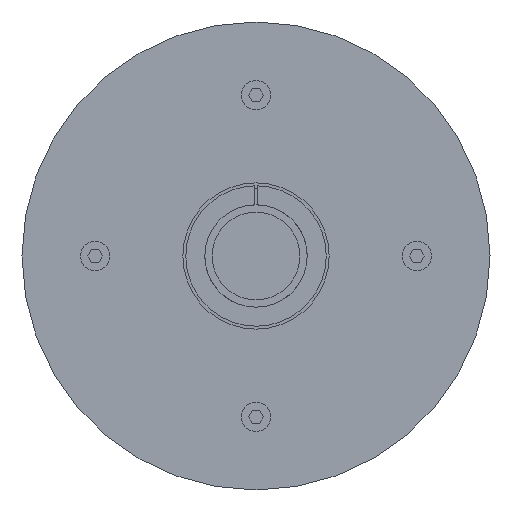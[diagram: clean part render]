
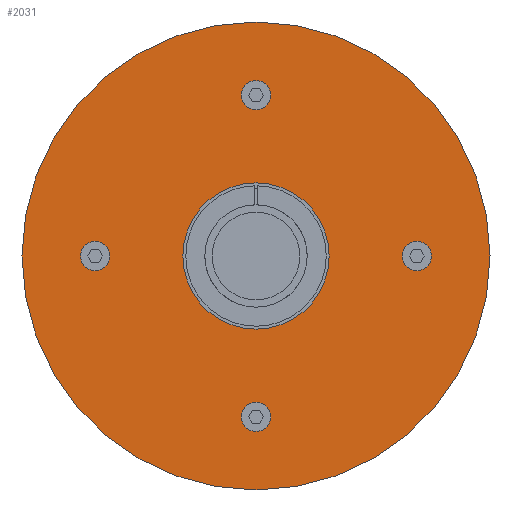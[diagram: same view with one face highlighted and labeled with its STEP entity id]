
A CAD part, left-side view. The second image highlights one B-rep face of the part: STEP entity #2031.
In plain terms, the highlighted planar face has unit normal (-1, 0, 0).
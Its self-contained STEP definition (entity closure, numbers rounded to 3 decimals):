
#1775 = VERTEX_POINT('',#1776);
#1776 = CARTESIAN_POINT('',(-356.,-80.,0.));
#1783 = CYLINDRICAL_SURFACE('',#1784,80.);
#1784 = AXIS2_PLACEMENT_3D('',#1785,#1786,#1787);
#1785 = CARTESIAN_POINT('',(-350.,0.,0.));
#1786 = DIRECTION('',(1.,0.,-0.));
#1787 = DIRECTION('',(0.,-1.,0.));
#1802 = EDGE_CURVE('',#1775,#1775,#1803,.T.);
#1803 = SURFACE_CURVE('',#1804,(#1809,#1816),.PCURVE_S1.);
#1804 = CIRCLE('',#1805,80.);
#1805 = AXIS2_PLACEMENT_3D('',#1806,#1807,#1808);
#1806 = CARTESIAN_POINT('',(-356.,0.,0.));
#1807 = DIRECTION('',(-1.,0.,0.));
#1808 = DIRECTION('',(0.,-1.,0.));
#1809 = PCURVE('',#1783,#1810);
#1810 = DEFINITIONAL_REPRESENTATION('',(#1811),#1815);
#1811 = LINE('',#1812,#1813);
#1812 = CARTESIAN_POINT('',(-0.,-6.));
#1813 = VECTOR('',#1814,1.);
#1814 = DIRECTION('',(-1.,0.));
#1815 = ( GEOMETRIC_REPRESENTATION_CONTEXT(2) 
PARAMETRIC_REPRESENTATION_CONTEXT() REPRESENTATION_CONTEXT('2D SPACE',''
  ) );
#1816 = PCURVE('',#1817,#1822);
#1817 = PLANE('',#1818);
#1818 = AXIS2_PLACEMENT_3D('',#1819,#1820,#1821);
#1819 = CARTESIAN_POINT('',(-356.,0.,0.)
  );
#1820 = DIRECTION('',(-1.,0.,0.));
#1821 = DIRECTION('',(0.,0.,1.));
#1822 = DEFINITIONAL_REPRESENTATION('',(#1823),#1827);
#1823 = CIRCLE('',#1824,80.);
#1824 = AXIS2_PLACEMENT_2D('',#1825,#1826);
#1825 = CARTESIAN_POINT('',(0.,0.));
#1826 = DIRECTION('',(0.,-1.));
#1827 = ( GEOMETRIC_REPRESENTATION_CONTEXT(2) 
PARAMETRIC_REPRESENTATION_CONTEXT() REPRESENTATION_CONTEXT('2D SPACE',''
  ) );
#1884 = CYLINDRICAL_SURFACE('',#1885,3.3);
#1885 = AXIS2_PLACEMENT_3D('',#1886,#1887,#1888);
#1886 = CARTESIAN_POINT('',(-337.,-55.,0.));
#1887 = DIRECTION('',(1.,0.,-0.));
#1888 = DIRECTION('',(0.,-1.,0.));
#1915 = CYLINDRICAL_SURFACE('',#1916,25.);
#1916 = AXIS2_PLACEMENT_3D('',#1917,#1918,#1919);
#1917 = CARTESIAN_POINT('',(-350.,0.,0.)
  );
#1918 = DIRECTION('',(1.,0.,-0.));
#1919 = DIRECTION('',(0.,-1.,0.));
#1950 = CYLINDRICAL_SURFACE('',#1951,3.3);
#1951 = AXIS2_PLACEMENT_3D('',#1952,#1953,#1954);
#1952 = CARTESIAN_POINT('',(-337.,0.,-55.));
#1953 = DIRECTION('',(1.,0.,-0.));
#1954 = DIRECTION('',(0.,-1.,0.));
#1985 = CYLINDRICAL_SURFACE('',#1986,3.3);
#1986 = AXIS2_PLACEMENT_3D('',#1987,#1988,#1989);
#1987 = CARTESIAN_POINT('',(-337.,0.,55.));
#1988 = DIRECTION('',(1.,0.,-0.));
#1989 = DIRECTION('',(0.,-1.,0.));
#2020 = CYLINDRICAL_SURFACE('',#2021,3.3);
#2021 = AXIS2_PLACEMENT_3D('',#2022,#2023,#2024);
#2022 = CARTESIAN_POINT('',(-337.,55.,0.));
#2023 = DIRECTION('',(1.,0.,-0.));
#2024 = DIRECTION('',(0.,-1.,0.));
#2031 = ADVANCED_FACE('',(#2032,#2035,#2065,#2091,#2121,#2151),#1817,.T.
  );
#2032 = FACE_BOUND('',#2033,.T.);
#2033 = EDGE_LOOP('',(#2034));
#2034 = ORIENTED_EDGE('',*,*,#1802,.T.);
#2035 = FACE_BOUND('',#2036,.T.);
#2036 = EDGE_LOOP('',(#2037));
#2037 = ORIENTED_EDGE('',*,*,#2038,.T.);
#2038 = EDGE_CURVE('',#2039,#2039,#2041,.T.);
#2039 = VERTEX_POINT('',#2040);
#2040 = CARTESIAN_POINT('',(-356.,-58.3,0.));
#2041 = SURFACE_CURVE('',#2042,(#2047,#2058),.PCURVE_S1.);
#2042 = CIRCLE('',#2043,3.3);
#2043 = AXIS2_PLACEMENT_3D('',#2044,#2045,#2046);
#2044 = CARTESIAN_POINT('',(-356.,-55.,0.));
#2045 = DIRECTION('',(1.,0.,-0.));
#2046 = DIRECTION('',(0.,-1.,0.));
#2047 = PCURVE('',#1817,#2048);
#2048 = DEFINITIONAL_REPRESENTATION('',(#2049),#2057);
#2049 = ( BOUNDED_CURVE() B_SPLINE_CURVE(2,(#2050,#2051,#2052,#2053,
#2054,#2055,#2056),.UNSPECIFIED.,.T.,.F.) B_SPLINE_CURVE_WITH_KNOTS((1,2
    ,2,2,2,1),(-2.094,0.,2.094,4.189,
6.283,8.378),.UNSPECIFIED.) CURVE() 
GEOMETRIC_REPRESENTATION_ITEM() RATIONAL_B_SPLINE_CURVE((1.,0.5,1.,0.5,
1.,0.5,1.)) REPRESENTATION_ITEM('') );
#2050 = CARTESIAN_POINT('',(0.,-58.3));
#2051 = CARTESIAN_POINT('',(-5.716,-58.3));
#2052 = CARTESIAN_POINT('',(-2.858,-53.35));
#2053 = CARTESIAN_POINT('',(0.,-48.4));
#2054 = CARTESIAN_POINT('',(2.858,-53.35));
#2055 = CARTESIAN_POINT('',(5.716,-58.3));
#2056 = CARTESIAN_POINT('',(0.,-58.3));
#2057 = ( GEOMETRIC_REPRESENTATION_CONTEXT(2) 
PARAMETRIC_REPRESENTATION_CONTEXT() REPRESENTATION_CONTEXT('2D SPACE',''
  ) );
#2058 = PCURVE('',#1884,#2059);
#2059 = DEFINITIONAL_REPRESENTATION('',(#2060),#2064);
#2060 = LINE('',#2061,#2062);
#2061 = CARTESIAN_POINT('',(-6.283,-19.));
#2062 = VECTOR('',#2063,1.);
#2063 = DIRECTION('',(1.,-0.));
#2064 = ( GEOMETRIC_REPRESENTATION_CONTEXT(2) 
PARAMETRIC_REPRESENTATION_CONTEXT() REPRESENTATION_CONTEXT('2D SPACE',''
  ) );
#2065 = FACE_BOUND('',#2066,.T.);
#2066 = EDGE_LOOP('',(#2067));
#2067 = ORIENTED_EDGE('',*,*,#2068,.F.);
#2068 = EDGE_CURVE('',#2069,#2069,#2071,.T.);
#2069 = VERTEX_POINT('',#2070);
#2070 = CARTESIAN_POINT('',(-356.,-25.,0.));
#2071 = SURFACE_CURVE('',#2072,(#2077,#2084),.PCURVE_S1.);
#2072 = CIRCLE('',#2073,25.);
#2073 = AXIS2_PLACEMENT_3D('',#2074,#2075,#2076);
#2074 = CARTESIAN_POINT('',(-356.,0.,0.)
  );
#2075 = DIRECTION('',(-1.,0.,0.));
#2076 = DIRECTION('',(0.,-1.,0.));
#2077 = PCURVE('',#1817,#2078);
#2078 = DEFINITIONAL_REPRESENTATION('',(#2079),#2083);
#2079 = CIRCLE('',#2080,25.);
#2080 = AXIS2_PLACEMENT_2D('',#2081,#2082);
#2081 = CARTESIAN_POINT('',(0.,0.));
#2082 = DIRECTION('',(0.,-1.));
#2083 = ( GEOMETRIC_REPRESENTATION_CONTEXT(2) 
PARAMETRIC_REPRESENTATION_CONTEXT() REPRESENTATION_CONTEXT('2D SPACE',''
  ) );
#2084 = PCURVE('',#1915,#2085);
#2085 = DEFINITIONAL_REPRESENTATION('',(#2086),#2090);
#2086 = LINE('',#2087,#2088);
#2087 = CARTESIAN_POINT('',(-0.,-6.));
#2088 = VECTOR('',#2089,1.);
#2089 = DIRECTION('',(-1.,0.));
#2090 = ( GEOMETRIC_REPRESENTATION_CONTEXT(2) 
PARAMETRIC_REPRESENTATION_CONTEXT() REPRESENTATION_CONTEXT('2D SPACE',''
  ) );
#2091 = FACE_BOUND('',#2092,.T.);
#2092 = EDGE_LOOP('',(#2093));
#2093 = ORIENTED_EDGE('',*,*,#2094,.T.);
#2094 = EDGE_CURVE('',#2095,#2095,#2097,.T.);
#2095 = VERTEX_POINT('',#2096);
#2096 = CARTESIAN_POINT('',(-356.,-3.3,-55.));
#2097 = SURFACE_CURVE('',#2098,(#2103,#2114),.PCURVE_S1.);
#2098 = CIRCLE('',#2099,3.3);
#2099 = AXIS2_PLACEMENT_3D('',#2100,#2101,#2102);
#2100 = CARTESIAN_POINT('',(-356.,0.,-55.));
#2101 = DIRECTION('',(1.,0.,-0.));
#2102 = DIRECTION('',(0.,-1.,0.));
#2103 = PCURVE('',#1817,#2104);
#2104 = DEFINITIONAL_REPRESENTATION('',(#2105),#2113);
#2105 = ( BOUNDED_CURVE() B_SPLINE_CURVE(2,(#2106,#2107,#2108,#2109,
#2110,#2111,#2112),.UNSPECIFIED.,.T.,.F.) B_SPLINE_CURVE_WITH_KNOTS((1,2
    ,2,2,2,1),(-2.094,0.,2.094,4.189,
6.283,8.378),.UNSPECIFIED.) CURVE() 
GEOMETRIC_REPRESENTATION_ITEM() RATIONAL_B_SPLINE_CURVE((1.,0.5,1.,0.5,
1.,0.5,1.)) REPRESENTATION_ITEM('') );
#2106 = CARTESIAN_POINT('',(-55.,-3.3));
#2107 = CARTESIAN_POINT('',(-60.716,-3.3));
#2108 = CARTESIAN_POINT('',(-57.858,1.65));
#2109 = CARTESIAN_POINT('',(-55.,6.6));
#2110 = CARTESIAN_POINT('',(-52.142,1.65));
#2111 = CARTESIAN_POINT('',(-49.284,-3.3));
#2112 = CARTESIAN_POINT('',(-55.,-3.3));
#2113 = ( GEOMETRIC_REPRESENTATION_CONTEXT(2) 
PARAMETRIC_REPRESENTATION_CONTEXT() REPRESENTATION_CONTEXT('2D SPACE',''
  ) );
#2114 = PCURVE('',#1950,#2115);
#2115 = DEFINITIONAL_REPRESENTATION('',(#2116),#2120);
#2116 = LINE('',#2117,#2118);
#2117 = CARTESIAN_POINT('',(-6.283,-19.));
#2118 = VECTOR('',#2119,1.);
#2119 = DIRECTION('',(1.,-0.));
#2120 = ( GEOMETRIC_REPRESENTATION_CONTEXT(2) 
PARAMETRIC_REPRESENTATION_CONTEXT() REPRESENTATION_CONTEXT('2D SPACE',''
  ) );
#2121 = FACE_BOUND('',#2122,.T.);
#2122 = EDGE_LOOP('',(#2123));
#2123 = ORIENTED_EDGE('',*,*,#2124,.T.);
#2124 = EDGE_CURVE('',#2125,#2125,#2127,.T.);
#2125 = VERTEX_POINT('',#2126);
#2126 = CARTESIAN_POINT('',(-356.,-3.3,55.));
#2127 = SURFACE_CURVE('',#2128,(#2133,#2144),.PCURVE_S1.);
#2128 = CIRCLE('',#2129,3.3);
#2129 = AXIS2_PLACEMENT_3D('',#2130,#2131,#2132);
#2130 = CARTESIAN_POINT('',(-356.,0.,55.));
#2131 = DIRECTION('',(1.,0.,-0.));
#2132 = DIRECTION('',(0.,-1.,0.));
#2133 = PCURVE('',#1817,#2134);
#2134 = DEFINITIONAL_REPRESENTATION('',(#2135),#2143);
#2135 = ( BOUNDED_CURVE() B_SPLINE_CURVE(2,(#2136,#2137,#2138,#2139,
#2140,#2141,#2142),.UNSPECIFIED.,.T.,.F.) B_SPLINE_CURVE_WITH_KNOTS((1,2
    ,2,2,2,1),(-2.094,0.,2.094,4.189,
6.283,8.378),.UNSPECIFIED.) CURVE() 
GEOMETRIC_REPRESENTATION_ITEM() RATIONAL_B_SPLINE_CURVE((1.,0.5,1.,0.5,
1.,0.5,1.)) REPRESENTATION_ITEM('') );
#2136 = CARTESIAN_POINT('',(55.,-3.3));
#2137 = CARTESIAN_POINT('',(49.284,-3.3));
#2138 = CARTESIAN_POINT('',(52.142,1.65));
#2139 = CARTESIAN_POINT('',(55.,6.6));
#2140 = CARTESIAN_POINT('',(57.858,1.65));
#2141 = CARTESIAN_POINT('',(60.716,-3.3));
#2142 = CARTESIAN_POINT('',(55.,-3.3));
#2143 = ( GEOMETRIC_REPRESENTATION_CONTEXT(2) 
PARAMETRIC_REPRESENTATION_CONTEXT() REPRESENTATION_CONTEXT('2D SPACE',''
  ) );
#2144 = PCURVE('',#1985,#2145);
#2145 = DEFINITIONAL_REPRESENTATION('',(#2146),#2150);
#2146 = LINE('',#2147,#2148);
#2147 = CARTESIAN_POINT('',(-6.283,-19.));
#2148 = VECTOR('',#2149,1.);
#2149 = DIRECTION('',(1.,-0.));
#2150 = ( GEOMETRIC_REPRESENTATION_CONTEXT(2) 
PARAMETRIC_REPRESENTATION_CONTEXT() REPRESENTATION_CONTEXT('2D SPACE',''
  ) );
#2151 = FACE_BOUND('',#2152,.T.);
#2152 = EDGE_LOOP('',(#2153));
#2153 = ORIENTED_EDGE('',*,*,#2154,.T.);
#2154 = EDGE_CURVE('',#2155,#2155,#2157,.T.);
#2155 = VERTEX_POINT('',#2156);
#2156 = CARTESIAN_POINT('',(-356.,51.7,0.));
#2157 = SURFACE_CURVE('',#2158,(#2163,#2174),.PCURVE_S1.);
#2158 = CIRCLE('',#2159,3.3);
#2159 = AXIS2_PLACEMENT_3D('',#2160,#2161,#2162);
#2160 = CARTESIAN_POINT('',(-356.,55.,0.));
#2161 = DIRECTION('',(1.,0.,-0.));
#2162 = DIRECTION('',(0.,-1.,0.));
#2163 = PCURVE('',#1817,#2164);
#2164 = DEFINITIONAL_REPRESENTATION('',(#2165),#2173);
#2165 = ( BOUNDED_CURVE() B_SPLINE_CURVE(2,(#2166,#2167,#2168,#2169,
#2170,#2171,#2172),.UNSPECIFIED.,.T.,.F.) B_SPLINE_CURVE_WITH_KNOTS((1,2
    ,2,2,2,1),(-2.094,0.,2.094,4.189,
6.283,8.378),.UNSPECIFIED.) CURVE() 
GEOMETRIC_REPRESENTATION_ITEM() RATIONAL_B_SPLINE_CURVE((1.,0.5,1.,0.5,
1.,0.5,1.)) REPRESENTATION_ITEM('') );
#2166 = CARTESIAN_POINT('',(0.,51.7));
#2167 = CARTESIAN_POINT('',(-5.716,51.7));
#2168 = CARTESIAN_POINT('',(-2.858,56.65));
#2169 = CARTESIAN_POINT('',(0.,61.6));
#2170 = CARTESIAN_POINT('',(2.858,56.65));
#2171 = CARTESIAN_POINT('',(5.716,51.7));
#2172 = CARTESIAN_POINT('',(0.,51.7));
#2173 = ( GEOMETRIC_REPRESENTATION_CONTEXT(2) 
PARAMETRIC_REPRESENTATION_CONTEXT() REPRESENTATION_CONTEXT('2D SPACE',''
  ) );
#2174 = PCURVE('',#2020,#2175);
#2175 = DEFINITIONAL_REPRESENTATION('',(#2176),#2180);
#2176 = LINE('',#2177,#2178);
#2177 = CARTESIAN_POINT('',(-6.283,-19.));
#2178 = VECTOR('',#2179,1.);
#2179 = DIRECTION('',(1.,-0.));
#2180 = ( GEOMETRIC_REPRESENTATION_CONTEXT(2) 
PARAMETRIC_REPRESENTATION_CONTEXT() REPRESENTATION_CONTEXT('2D SPACE',''
  ) );
